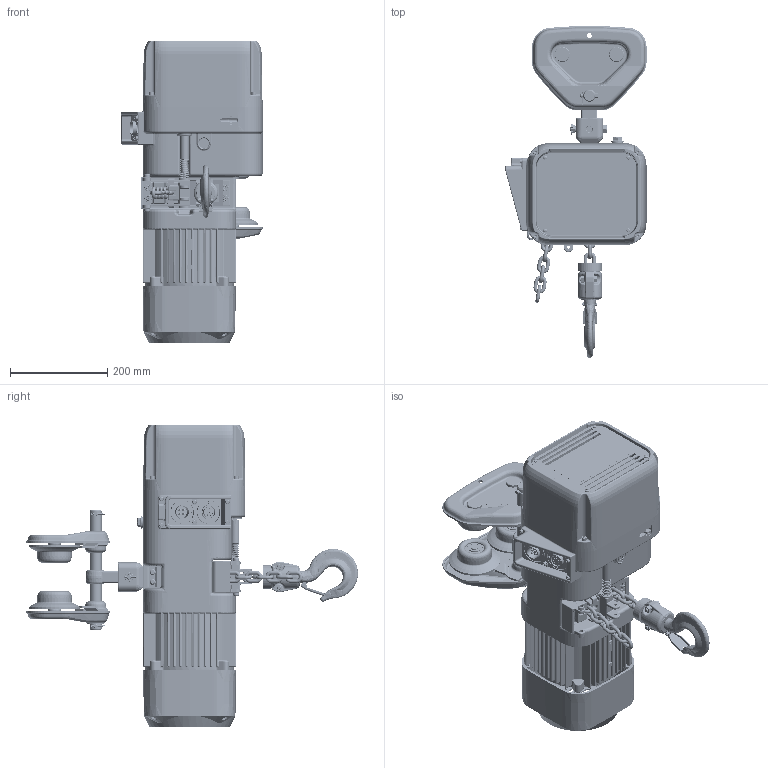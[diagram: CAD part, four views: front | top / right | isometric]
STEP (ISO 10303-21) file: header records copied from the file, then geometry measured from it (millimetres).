
FILE_DESCRIPTION (( 'STEP AP214' ), '1' );
FILE_NAME ('NER2P010SD.STEP', '2026-08-11T12:06:13', ( '' ), ( '' ), 'SwSTEP 2.0', 'SolidWorks 2026', '' );
FILE_SCHEMA (( 'AUTOMOTIVE_DESIGN' ));
Length unit declared in the file: inch
Products named in the file (63): Socket Head Cap Screw_AM_B18.3.1M - 5 x 0.8 x 25 Hex SHCS -- 25NHX; ER2DS9015; ER2DS9337; ER2DS1002; 6302Z BEARING; T6GA0109103; MS104010; ER2DI4511; ER2DS9105; ER2DS9331; ER2DI9104_ER2DI9104; ER2CI2564; ER2CS9357; T7GB004010; L3183008; ER2DS9011; PTF2010_4" FLANGE; MS561010; ER2DS9107_ER2DS9107; J1AP2-4001212.SLDASM; ER2CS9123; ER2DS2015; ER2CS9121; NER2010SD_Suspender E; ES127005S; ER2DS9338; ER2DS9103; E3S111003; T6G5102010; ER1BS9135; T6G156010; J1BY9-0803022_B18.2.3.1M - Hex cap screw, M8 x 1.25 x 30 --30C; ER2DS9101; J1BG10604024_J1BG10604024; LCER2010NP_8; ER2CS9027; E3S112003; 9009423_9009423; ES558003; ER1DS9053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
Assembly tree (121 placements, depth 5):
  NER2P010SD
    PTF2010_4" FLANGE
      T6G5112010  x2
        T6GA0109112
        T6GA0109113
        T6GA0109103
      T6G5102010  x4
        T6GA0109101
        6302Z BEARING
      MS104010  x4
      9047115_9047115  x4
      T6G800010P
      T7G115010
      T7G117010
      T6G156010  x2
      9009423_9009423  x2
    NER2010SD_Suspender E
      ER2DI2104
        ER2DI9104_ER2DI9104
        ER2DI9185_ER2DI9185
        J1AP2-4001212.SLDASM  x4
      ER2DS9101
      ER2DS9105
      ER2DS9103
      ER2DS9107_ER2DS9107
      ER2DS1011
        ER2DS2015
          ER2DS9015  x2
          J1BY9-0803022_B18.2.3.1M - Hex cap screw, M8 x 1.25 x 30 --30C  x2
          J1WS011-20080_Rectangular section spring washer BS 4464 - 16 (Type B)  x2
          J1NA001-20080_B18.2.4.1M - Hex nut, Style 1,  M8 x 1.25 --D-C  x2
        ER2DS9011
        ER2DS1002
      ER2DS9331
      ER2DS9337
      ER2DS9338
      ER2CS9357
      ER2CS9121  x2
      ER2CS9123
      Socket Head Cap Screw_AM_B18.3.1M - 6 x 1.0 x 12 Hex SHCS -- 12CHX
      ER2CS9186
      LCER2010NP_8
        LCER2010NP  x8
      ER1DS9053
      9012711_9012711  x4
      Socket Head Cap Screw_AM_B18.3.1M - 5 x 0.8 x 25 Hex SHCS -- 25NHX  x4
      ES127005S
      ER1BS9135
      E3S112003  x2
      E3S111003  x2
      J1BG10604024_J1BG10604024  x4
      ER2DI4511
        ER2CS9511
        MS561010  x6
        ER2CS2523
        ER2CI2564
        ES558003  x8
      ER2BHM10I9A5
      ER2CS9027
      T7GB004010
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Bounding box: 291 x 683.81 x 623 mm (x, y, z)
Volume: 19649905.5 mm3; surface area: 1971457.3 mm2
Topology: 126 solids, 147 shells, 8401 faces, 22047 edges, 13952 vertices
Faces by surface type: plane 3163, cylinder 2834, torus 860, bspline 790, cone 504, sphere 250
Entity records: 220885 total; most frequent: CARTESIAN_POINT 78035, ORIENTED_EDGE 29572, DIRECTION 28590, EDGE_CURVE 14788, AXIS2_PLACEMENT_3D 10905, VERTEX_POINT 9498, VECTOR 6780, LINE 6780
